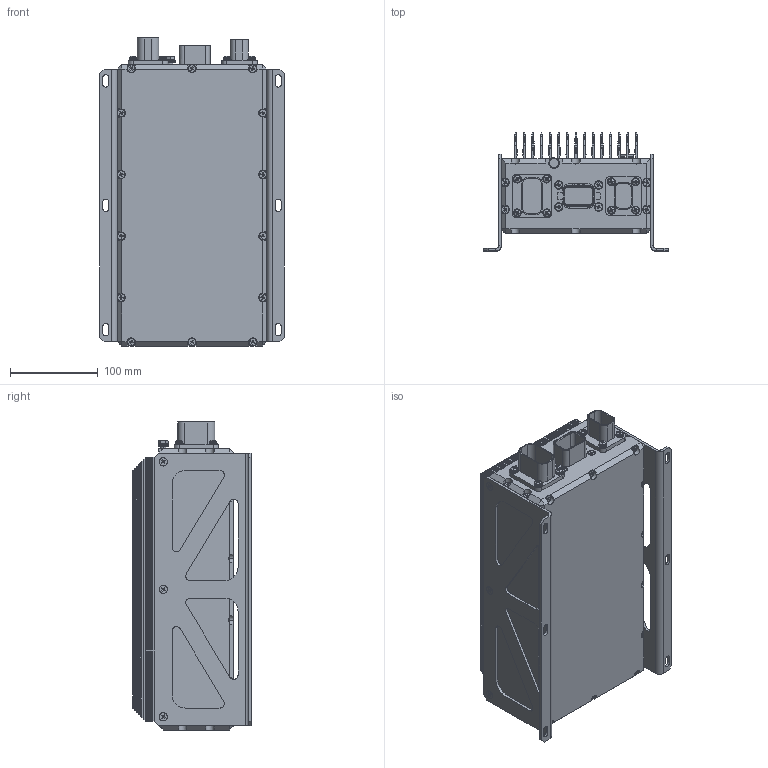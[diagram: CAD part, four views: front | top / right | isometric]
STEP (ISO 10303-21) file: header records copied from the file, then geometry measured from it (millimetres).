
FILE_DESCRIPTION (( 'STEP AP214' ), '1' );
FILE_NAME ('ﾐﾃﾋﾑ.435321.004-001 ﾑﾀﾝ-ﾏﾗ7-09-ﾀ2.STEP', '2026-08-24T13:02:33', ( '' ), ( '' ), 'SwSTEP 2.0', 'SolidWorks 2022', '' );
FILE_SCHEMA (( 'AUTOMOTIVE_DESIGN' ));
Length unit declared in the file: millimetre
Products named in the file (1): РГЛС.435321.004-001 САЭ-ПЧ7-09-А2
Bounding box: 210 x 134.7 x 350.3 mm (x, y, z)
Volume: 5027010.9 mm3; surface area: 672114 mm2
Topology: 84 solids, 85 shells, 4133 faces, 10555 edges, 6536 vertices
Faces by surface type: plane 2085, cylinder 1145, cone 625, torus 144, bspline 118, sphere 16
Entity records: 178170 total; most frequent: CARTESIAN_POINT 34328, ORIENTED_EDGE 20718, DIRECTION 20039, EDGE_CURVE 10359, AXIS2_PLACEMENT_3D 7090, VERTEX_POINT 6536, VECTOR 5859, LINE 5859
